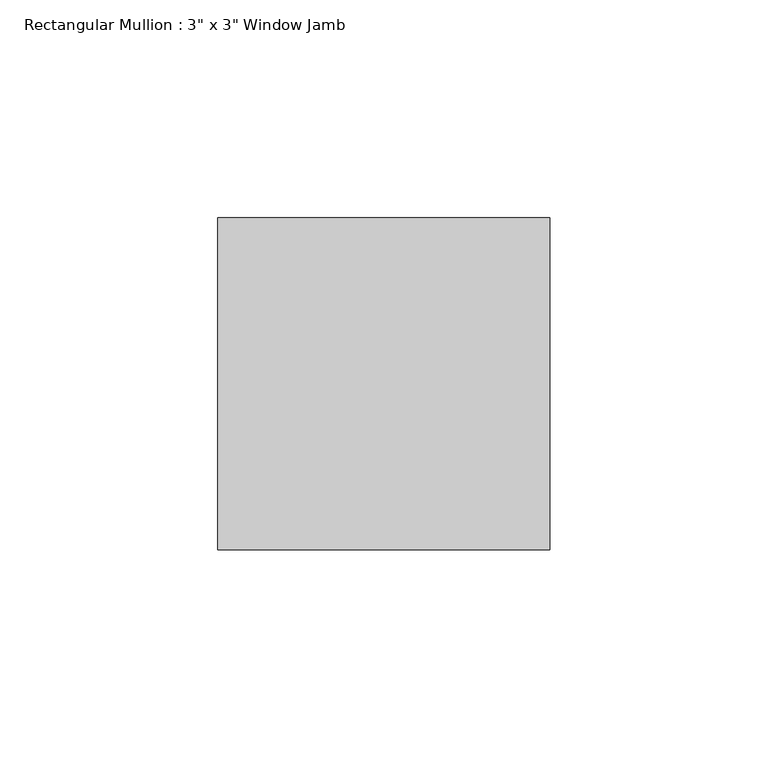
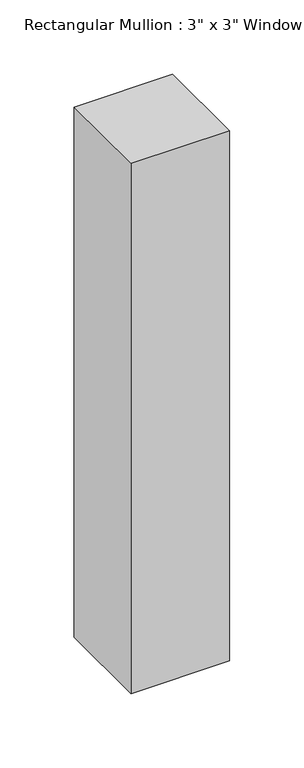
"""IFC4 building model written with IfcOpenShell, lengths in millimetres: member geometry."""

from ifc_helpers import new_model, si_unit, frame, origin, place, context, project, spatial, polyline, outline, extrude, source, transform, mapped, element, save


def member_58a7523c(model_context):
    return source(origin(), model_context, "Body", "SweptSolid", [
        extrude(outline(polyline([(0.0, 25.4), (0.0, -50.8), (-76.2, -50.8), (-76.2, 25.4), (0.0, 25.4)])), frame((0.0, 0.0, -434.34), z_axis=(0.0, 0.0, 1.0), x_axis=(1.0, 0.0, 0.0)), (0.0, 0.0, 1.0), 434.34),
    ])


if __name__ == "__main__":
    model = new_model("IFC4")
    model_context = context("Model", 3, world=origin())
    ifc_project = project(units=[si_unit("LENGTHUNIT", "METRE", prefix="MILLI")], contexts=[model_context])
    site = spatial("IfcSite", under=ifc_project)
    building = spatial("IfcBuilding", under=site)
    placement = place(None, origin())
    member_shape = member_58a7523c(model_context)
    element("IfcMember", 1, ObjectType="Rectangular Mullion : 3\" x 3\" Window Jamb", at=placement, inside=building, context=model_context, shape_type="MappedRepresentation", body=[
        mapped(member_shape, transform((0.0, 0.0, 0.0), x_axis=(1.0, 0.0, 0.0), y_axis=(0.0, 1.0, 0.0), z_axis=(0.0, 0.0, 1.0))),
    ])
    save(model, "model.ifc")
